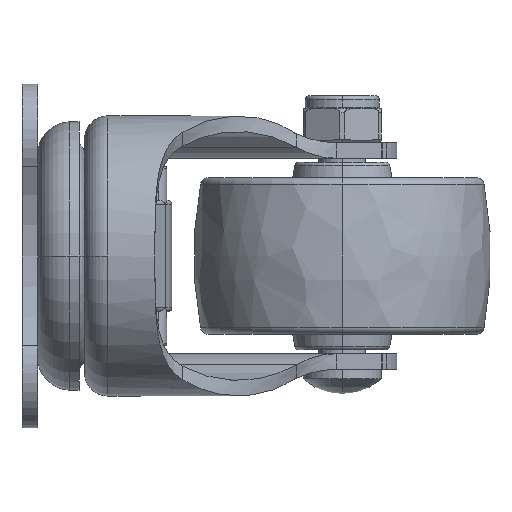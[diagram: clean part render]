
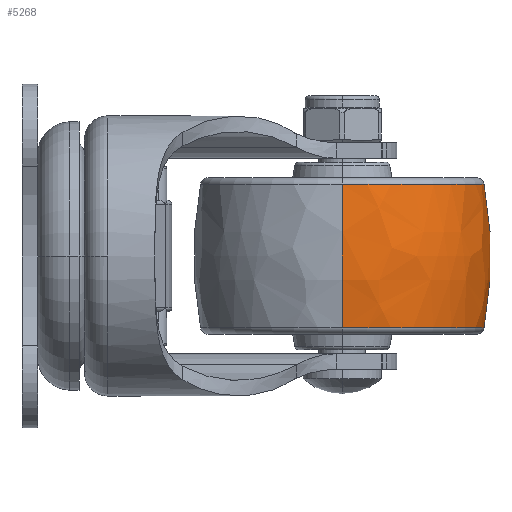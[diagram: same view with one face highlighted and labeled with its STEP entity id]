
A CAD part, left-side view. The second image highlights one B-rep face of the part: STEP entity #5268.
In plain terms, the highlighted free-form (B-spline) face has degree [3, 3] with [7, 4] control points.
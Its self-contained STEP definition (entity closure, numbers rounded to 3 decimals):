
#4884=CARTESIAN_POINT('',(0.,-31.,0.));
#4885=DIRECTION('',(0.,0.,1.));
#4886=DIRECTION('',(0.184,0.983,0.));
#4887=AXIS2_PLACEMENT_3D('',#4884,#4885,#4886);
#4889=CARTESIAN_POINT('',(0.,31.,0.));
#4890=DIRECTION('',(0.,0.,-1.));
#4891=DIRECTION('',(0.184,-0.983,0.));
#4892=AXIS2_PLACEMENT_3D('',#4889,#4890,#4891);
#4894=CARTESIAN_POINT('',(9.184,0.,0.));
#4895=DIRECTION('',(-1.,0.,0.));
#4896=DIRECTION('',(0.,1.,0.));
#4897=AXIS2_PLACEMENT_3D('',#4894,#4895,#4896);
#4919=CARTESIAN_POINT('',(-9.184,0.,0.));
#4920=DIRECTION('',(-1.,0.,0.));
#4921=DIRECTION('',(0.,1.,0.));
#4922=AXIS2_PLACEMENT_3D('',#4919,#4920,#4921);
#5041=CARTESIAN_POINT('',(9.184,18.149,0.));
#5043=VERTEX_POINT('',#5041);
#5044=CARTESIAN_POINT('',(-9.184,18.149,0.));
#5045=VERTEX_POINT('',#5044);
#5049=CARTESIAN_POINT('',(9.184,-18.149,0.));
#5051=VERTEX_POINT('',#5049);
#5052=CARTESIAN_POINT('',(-9.184,-18.149,0.));
#5053=VERTEX_POINT('',#5052);
#5230=CARTESIAN_POINT('',(-9.547,-18.044,
1.135));
#5231=CARTESIAN_POINT('',(-3.222,-19.272,
1.213));
#5232=CARTESIAN_POINT('',(3.222,-19.272,1.213));
#5233=CARTESIAN_POINT('',(9.547,-18.044,1.135));
#5234=CARTESIAN_POINT('',(-9.547,-18.743,
-9.969));
#5235=CARTESIAN_POINT('',(-3.222,-20.018,
-10.648));
#5236=CARTESIAN_POINT('',(3.222,-20.018,
-10.648));
#5237=CARTESIAN_POINT('',(9.547,-18.743,
-9.969));
#5238=CARTESIAN_POINT('',(-9.547,-11.127,
-18.08));
#5239=CARTESIAN_POINT('',(-3.222,-11.884,
-19.31));
#5240=CARTESIAN_POINT('',(3.222,-11.884,
-19.31));
#5241=CARTESIAN_POINT('',(9.547,-11.127,
-18.08));
#5242=CARTESIAN_POINT('',(-9.547,0.,-18.08));
#5243=CARTESIAN_POINT('',(-3.222,0.,-19.31));
#5244=CARTESIAN_POINT('',(3.222,0.,-19.31));
#5245=CARTESIAN_POINT('',(9.547,0.,-18.08));
#5246=CARTESIAN_POINT('',(-9.547,11.127,
-18.08));
#5247=CARTESIAN_POINT('',(-3.222,11.884,
-19.31));
#5248=CARTESIAN_POINT('',(3.222,11.884,-19.31));
#5249=CARTESIAN_POINT('',(9.547,11.127,-18.08));
#5250=CARTESIAN_POINT('',(-9.547,18.743,
-9.969));
#5251=CARTESIAN_POINT('',(-3.222,20.018,
-10.648));
#5252=CARTESIAN_POINT('',(3.222,20.018,-10.648));
#5253=CARTESIAN_POINT('',(9.547,18.743,-9.969));
#5254=CARTESIAN_POINT('',(-9.547,18.044,1.135));
#5255=CARTESIAN_POINT('',(-3.222,19.272,1.213));
#5256=CARTESIAN_POINT('',(3.222,19.272,1.213));
#5257=CARTESIAN_POINT('',(9.547,18.044,1.135));
#5258=(BOUNDED_SURFACE()B_SPLINE_SURFACE(3,3,((#5230,#5231,#5232,#5233),(#5234,
#5235,#5236,#5237),(#5238,#5239,#5240,#5241),(#5242,#5243,#5244,#5245),(#5246,
#5247,#5248,#5249),(#5250,#5251,#5252,#5253),(#5254,#5255,#5256,#5257)),
.UNSPECIFIED.,.F.,.F.,.F.)B_SPLINE_SURFACE_WITH_KNOTS((4,3,4),(4,4),(0.,1.,
2.),(0.,1.),.UNSPECIFIED.)GEOMETRIC_REPRESENTATION_ITEM()RATIONAL_B_SPLINE_SURFACE(((1.198,1.184,1.184,1.198),(
0.946,0.935,0.935,0.946),(
0.946,0.935,0.935,0.946),(
1.198,1.184,1.184,1.198),(
0.946,0.935,0.935,0.946),(
0.946,0.935,0.935,0.946),(
1.198,1.184,1.184,1.198)))REPRESENTATION_ITEM('')SURFACE());
#5260=ORIENTED_EDGE('',*,*,#5259,.T.);
#5262=ORIENTED_EDGE('',*,*,#5261,.T.);
#5264=ORIENTED_EDGE('',*,*,#5263,.F.);
#5265=ORIENTED_EDGE('',*,*,#5223,.F.);
#5266=EDGE_LOOP('',(#5260,#5262,#5264,#5265));
#5267=FACE_OUTER_BOUND('',#5266,.F.);
#4888=CIRCLE('',#4887,50.);
#4893=CIRCLE('',#4892,50.);
#4898=CIRCLE('',#4897,18.149);
#4923=CIRCLE('',#4922,18.149);
#5223=EDGE_CURVE('',#5043,#5051,#4898,.T.);
#5259=EDGE_CURVE('',#5043,#5045,#4888,.T.);
#5261=EDGE_CURVE('',#5045,#5053,#4923,.T.);
#5263=EDGE_CURVE('',#5051,#5053,#4893,.T.);
#5268=ADVANCED_FACE('',(#5267),#5258,.T.);
